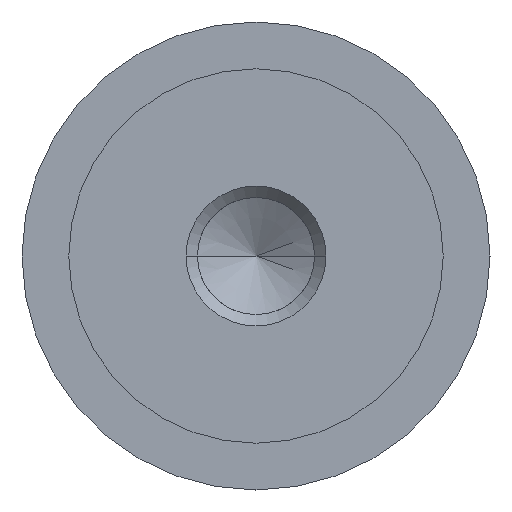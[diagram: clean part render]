
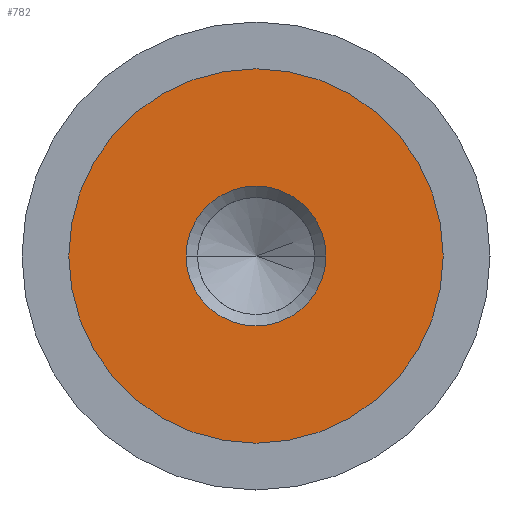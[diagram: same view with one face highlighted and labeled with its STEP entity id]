
A CAD part, left-side view. The second image highlights one B-rep face of the part: STEP entity #782.
In plain terms, the highlighted planar face has unit normal (-1, 0, 0).
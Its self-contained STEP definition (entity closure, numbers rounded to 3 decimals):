
#8 = AXIS2_PLACEMENT_3D ( 'NONE', #304, #674, #309 ) ;
#10 = DIRECTION ( 'NONE',  ( 0., 0., -1. ) ) ;
#23 = CARTESIAN_POINT ( 'NONE',  ( -7.49, 2.99, 0. ) ) ;
#52 = VERTEX_POINT ( 'NONE', #350 ) ;
#55 = AXIS2_PLACEMENT_3D ( 'NONE', #560, #80, #10 ) ;
#71 = CIRCLE ( 'NONE', #568, 8. ) ;
#80 = DIRECTION ( 'NONE',  ( 1., 0., 0. ) ) ;
#106 = CARTESIAN_POINT ( 'NONE',  ( -7.49, -2.99, 0. ) ) ;
#153 = ORIENTED_EDGE ( 'NONE', *, *, #557, .T. ) ;
#189 = FACE_OUTER_BOUND ( 'NONE', #668, .T. ) ;
#207 = PLANE ( 'NONE',  #8 ) ;
#210 = VERTEX_POINT ( 'NONE', #106 ) ;
#238 = CIRCLE ( 'NONE', #55, 2.99 ) ;
#260 = EDGE_CURVE ( 'NONE', #458, #210, #283, .T. ) ;
#269 = VERTEX_POINT ( 'NONE', #671 ) ;
#272 = AXIS2_PLACEMENT_3D ( 'NONE', #725, #729, #553 ) ;
#283 = CIRCLE ( 'NONE', #272, 2.99 ) ;
#304 = CARTESIAN_POINT ( 'NONE',  ( -7.49, 8., 0. ) ) ;
#309 = DIRECTION ( 'NONE',  ( 0., 0., -1. ) ) ;
#326 = ORIENTED_EDGE ( 'NONE', *, *, #561, .T. ) ;
#333 = DIRECTION ( 'NONE',  ( -1., 0., 0. ) ) ;
#337 = DIRECTION ( 'NONE',  ( 0., 0., 1. ) ) ;
#338 = CIRCLE ( 'NONE', #669, 8. ) ;
#350 = CARTESIAN_POINT ( 'NONE',  ( -7.49, 0., 8. ) ) ;
#383 = FACE_BOUND ( 'NONE', #440, .T. ) ;
#393 = CARTESIAN_POINT ( 'NONE',  ( -7.49, 0., 0. ) ) ;
#394 = ORIENTED_EDGE ( 'NONE', *, *, #260, .T. ) ;
#422 = EDGE_CURVE ( 'NONE', #210, #458, #238, .T. ) ;
#440 = EDGE_LOOP ( 'NONE', ( #564, #394 ) ) ;
#458 = VERTEX_POINT ( 'NONE', #23 ) ;
#515 = DIRECTION ( 'NONE',  ( -1., 0., 0. ) ) ;
#553 = DIRECTION ( 'NONE',  ( 0., 0., -1. ) ) ;
#557 = EDGE_CURVE ( 'NONE', #52, #269, #71, .T. ) ;
#560 = CARTESIAN_POINT ( 'NONE',  ( -7.49, 0., 0. ) ) ;
#561 = EDGE_CURVE ( 'NONE', #269, #52, #338, .T. ) ;
#564 = ORIENTED_EDGE ( 'NONE', *, *, #422, .T. ) ;
#568 = AXIS2_PLACEMENT_3D ( 'NONE', #393, #515, #630 ) ;
#630 = DIRECTION ( 'NONE',  ( 0., 0., 1. ) ) ;
#668 = EDGE_LOOP ( 'NONE', ( #153, #326 ) ) ;
#669 = AXIS2_PLACEMENT_3D ( 'NONE', #758, #333, #337 ) ;
#671 = CARTESIAN_POINT ( 'NONE',  ( -7.49, 0., -8. ) ) ;
#674 = DIRECTION ( 'NONE',  ( 1., 0., 0. ) ) ;
#725 = CARTESIAN_POINT ( 'NONE',  ( -7.49, 0., 0. ) ) ;
#729 = DIRECTION ( 'NONE',  ( 1., 0., 0. ) ) ;
#758 = CARTESIAN_POINT ( 'NONE',  ( -7.49, 0., 0. ) ) ;
#782 = ADVANCED_FACE ( 'NONE', ( #383, #189 ), #207, .F. ) ;
